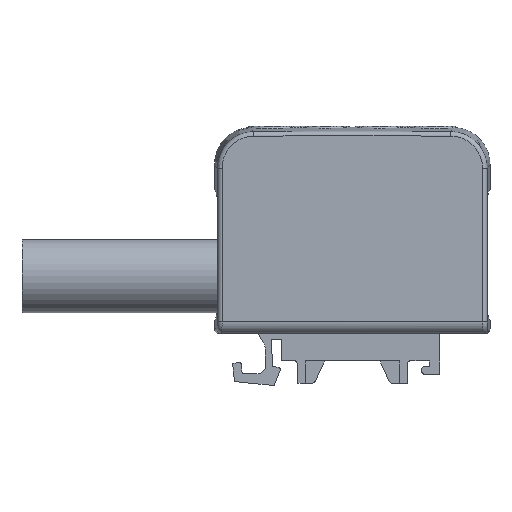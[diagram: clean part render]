
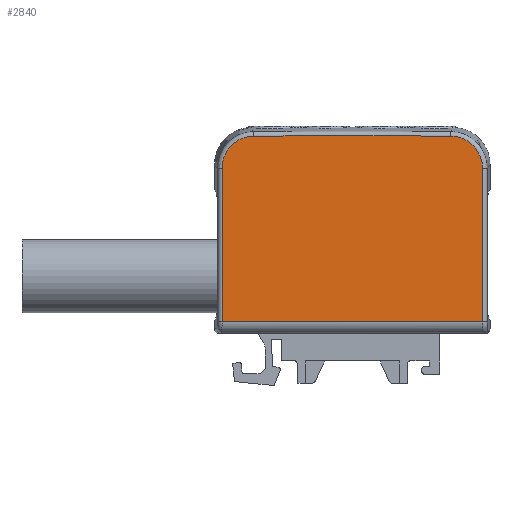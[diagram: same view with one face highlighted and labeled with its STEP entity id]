
A CAD part, front view. The second image highlights one B-rep face of the part: STEP entity #2840.
In plain terms, the highlighted planar face has unit normal (0, -1, 0).
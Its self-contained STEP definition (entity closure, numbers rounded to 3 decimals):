
#51=B_SPLINE_CURVE_WITH_KNOTS('',3,(#4764,#4765,#4766,#4767,#4768,#4769),
 .UNSPECIFIED.,.F.,.F.,(4,1,1,4),(0.,0.005,0.008,
0.011),.UNSPECIFIED.);
#69=B_SPLINE_CURVE_WITH_KNOTS('',3,(#5142,#5143,#5144,#5145,#5146,#5147),
 .UNSPECIFIED.,.F.,.F.,(4,1,1,4),(0.,0.005,
0.008,0.011),.UNSPECIFIED.);
#330=LINE('',#4773,#578);
#342=LINE('',#5156,#590);
#343=LINE('',#5158,#591);
#578=VECTOR('',#3672,1000.);
#590=VECTOR('',#3742,1000.);
#591=VECTOR('',#3743,1000.);
#1328=ORIENTED_EDGE('',*,*,#1826,.T.);
#1329=ORIENTED_EDGE('',*,*,#1828,.T.);
#1330=ORIENTED_EDGE('',*,*,#1829,.F.);
#1331=ORIENTED_EDGE('',*,*,#1779,.T.);
#1332=ORIENTED_EDGE('',*,*,#1777,.T.);
#1333=ORIENTED_EDGE('',*,*,#1775,.T.);
#1775=EDGE_CURVE('',#2092,#2094,#2213,.T.);
#1777=EDGE_CURVE('',#2095,#2092,#51,.T.);
#1779=EDGE_CURVE('',#2096,#2095,#330,.F.);
#1826=EDGE_CURVE('',#2094,#2121,#69,.T.);
#1828=EDGE_CURVE('',#2121,#2122,#342,.T.);
#1829=EDGE_CURVE('',#2096,#2122,#343,.T.);
#2092=VERTEX_POINT('',#4735);
#2094=VERTEX_POINT('',#4739);
#2095=VERTEX_POINT('',#4763);
#2096=VERTEX_POINT('',#4772);
#2121=VERTEX_POINT('',#5141);
#2122=VERTEX_POINT('',#5157);
#2213=CIRCLE('',#3048,2498.13);
#2395=EDGE_LOOP('',(#1328,#1329,#1330,#1331,#1332,#1333));
#2580=FACE_BOUND('',#2395,.T.);
#2694=PLANE('',#3080);
#2840=ADVANCED_FACE('',(#2580),#2694,.T.);
#3048=AXIS2_PLACEMENT_3D('',#4740,#3664,#3665);
#3080=AXIS2_PLACEMENT_3D('',#5155,#3740,#3741);
#3664=DIRECTION('',(0.,-1.,0.));
#3665=DIRECTION('',(0.,0.,-1.));
#3672=DIRECTION('',(0.,0.,-1.));
#3740=DIRECTION('',(0.,-1.,0.));
#3741=DIRECTION('',(0.,0.,1.));
#3742=DIRECTION('',(0.,0.,-1.));
#3743=DIRECTION('',(-1.,0.,0.));
#4735=CARTESIAN_POINT('',(21.512,-11.6,20.537));
#4739=CARTESIAN_POINT('',(-21.512,-11.6,20.537));
#4740=CARTESIAN_POINT('',(0.,-11.6,-2477.5));
#4763=CARTESIAN_POINT('',(28.409,-11.6,13.53));
#4764=CARTESIAN_POINT('',(28.409,-11.6,13.53));
#4765=CARTESIAN_POINT('',(28.409,-11.6,15.364));
#4766=CARTESIAN_POINT('',(27.304,-11.6,18.064));
#4767=CARTESIAN_POINT('',(24.232,-11.6,20.152));
#4768=CARTESIAN_POINT('',(22.429,-11.6,20.529));
#4769=CARTESIAN_POINT('',(21.512,-11.6,20.537));
#4772=CARTESIAN_POINT('',(28.409,-11.6,-20.));
#4773=CARTESIAN_POINT('',(28.409,-11.6,0.));
#5141=CARTESIAN_POINT('',(-28.409,-11.6,13.53));
#5142=CARTESIAN_POINT('',(-21.512,-11.6,20.537));
#5143=CARTESIAN_POINT('',(-23.347,-11.6,20.521));
#5144=CARTESIAN_POINT('',(-26.029,-11.6,19.365));
#5145=CARTESIAN_POINT('',(-28.056,-11.6,16.253));
#5146=CARTESIAN_POINT('',(-28.409,-11.6,14.447));
#5147=CARTESIAN_POINT('',(-28.409,-11.6,13.53));
#5155=CARTESIAN_POINT('',(0.,-11.6,0.));
#5156=CARTESIAN_POINT('',(-28.409,-11.6,0.));
#5157=CARTESIAN_POINT('',(-28.409,-11.6,-20.));
#5158=CARTESIAN_POINT('',(-29.35,-11.6,-20.));
